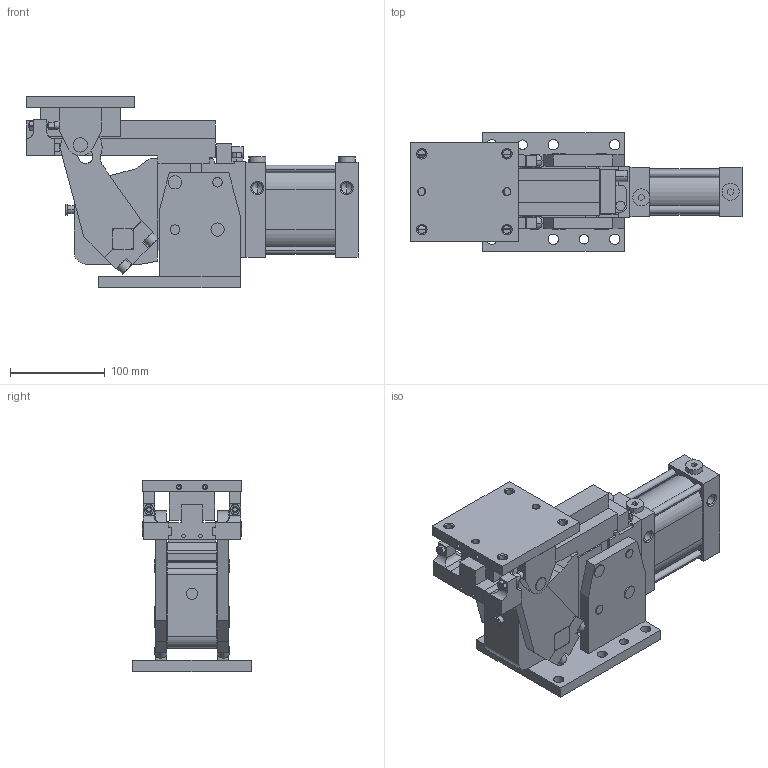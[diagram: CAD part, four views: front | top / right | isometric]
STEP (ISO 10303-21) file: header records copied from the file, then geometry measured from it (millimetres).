
FILE_DESCRIPTION (( 'STEP AP214' ), '1' );
FILE_NAME ('slcp63_90_xx_f_x.STEP', '2019-09-19T12:51:19', ( '' ), ( '' ), 'SwSTEP 2.0', 'SolidWorks 2019', '' );
FILE_SCHEMA (( 'AUTOMOTIVE_DESIGN' ));
Length unit declared in the file: millimetre
Products named in the file (8): slcp63_90_xx_f_x; slcp63_90_xx_x_x; piastra_superiore_slcp63; staffa_reazione_sinistra_slcp63_sx; blocchetto_VEP_0; tappo cil G1_4 din908_rondella rame; leva_slcp63; staffa_reazione_destra_slcp63_dx
Assembly tree (8 placements, depth 2):
  slcp63_90_xx_f_x
    slcp63_90_xx_x_x
    piastra_superiore_slcp63
    leva_slcp63
    blocchetto_VEP_0
    staffa_reazione_destra_slcp63_dx
    staffa_reazione_sinistra_slcp63_sx
    tappo cil G1_4 din908_rondella rame  x2
Bounding box: 351 x 125 x 202.5 mm (x, y, z)
Volume: 2688341.9 mm3; surface area: 349049.4 mm2
Topology: 19 solids, 33 shells, 770 faces, 1833 edges, 1121 vertices
Faces by surface type: plane 343, cylinder 251, cone 168, torus 8
Entity records: 22724 total; most frequent: CARTESIAN_POINT 4003, DIRECTION 3821, ORIENTED_EDGE 3486, EDGE_CURVE 1743, AXIS2_PLACEMENT_3D 1391, VERTEX_POINT 1101, VECTOR 1039, LINE 1039
